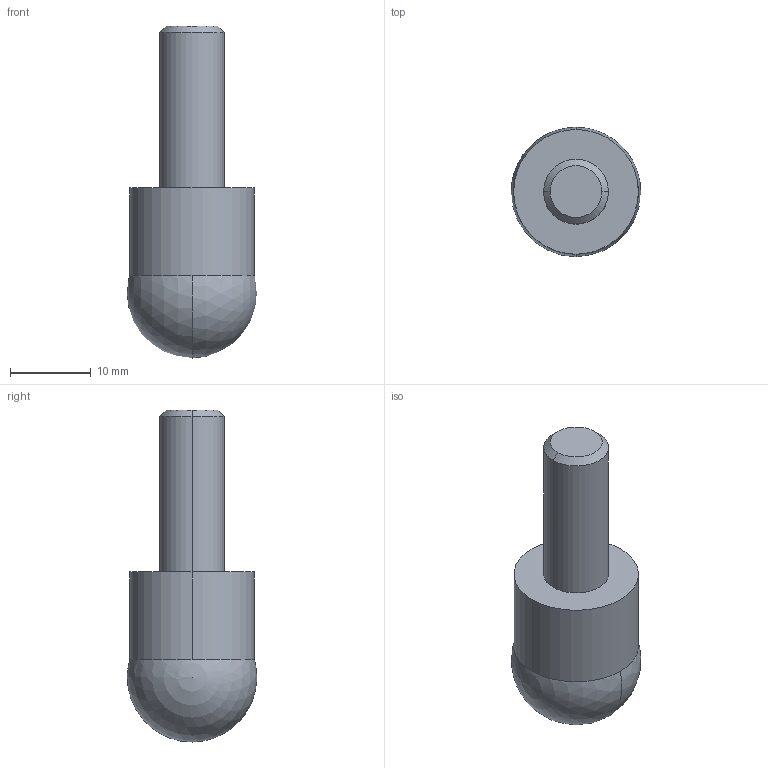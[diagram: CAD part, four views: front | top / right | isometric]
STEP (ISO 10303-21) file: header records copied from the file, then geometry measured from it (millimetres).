
FILE_DESCRIPTION (( 'STEP AP214' ), '1' );
FILE_NAME ('38.671.160_3D-model.step', '2022-02-15T20:52:31', ( '' ), ( '' ), 'SwSTEP 2.0', 'SolidWorks 2020', '' );
FILE_SCHEMA (( 'AUTOMOTIVE_DESIGN' ));
Length unit declared in the file: millimetre
Products named in the file (3): NOCUT-3D^Baugr145; 38.671.160_3D-model; CUT-3D^Baugr145
Assembly tree (2 placements, depth 2):
  38.671.160_3D-model
    CUT-3D^Baugr145
    NOCUT-3D^Baugr145
Bounding box: 16 x 15.99 x 41 mm (x, y, z)
Volume: 4513 mm3; surface area: 2084 mm2
Topology: 2 solids, 2 shells, 12 faces, 25 edges, 16 vertices
Faces by surface type: plane 4, cylinder 4, sphere 2, cone 2
Entity records: 412 total; most frequent: DIRECTION 74, CARTESIAN_POINT 53, ORIENTED_EDGE 40, AXIS2_PLACEMENT_3D 34, EDGE_CURVE 20, CIRCLE 14, VERTEX_POINT 13, EDGE_LOOP 13
